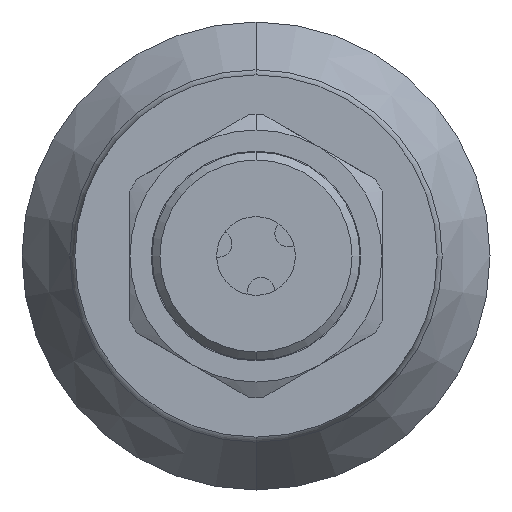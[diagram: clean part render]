
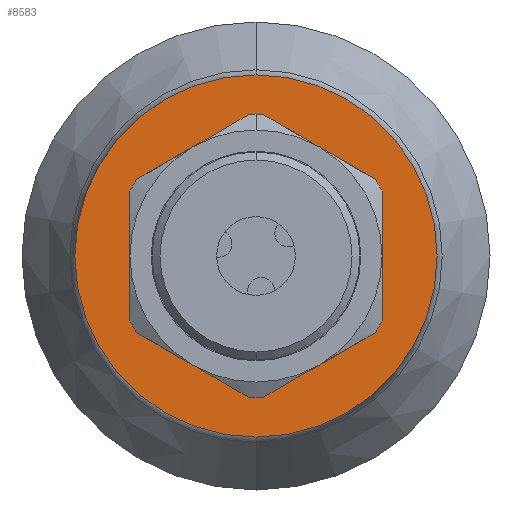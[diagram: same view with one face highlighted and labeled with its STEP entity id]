
A CAD part, front view. The second image highlights one B-rep face of the part: STEP entity #8583.
In plain terms, the highlighted planar face has unit normal (0, -1, 0).
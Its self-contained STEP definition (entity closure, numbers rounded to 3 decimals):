
#468 = LINE ( 'NONE', #13106, #13271 ) ;
#508 = VERTEX_POINT ( 'NONE', #13259 ) ;
#617 = VERTEX_POINT ( 'NONE', #12422 ) ;
#692 = CIRCLE ( 'NONE', #1137, 9. ) ;
#703 = DIRECTION ( 'NONE',  ( 0., 0., -1. ) ) ;
#989 = VERTEX_POINT ( 'NONE', #11395 ) ;
#995 = EDGE_CURVE ( 'NONE', #3315, #7784, #7433, .T. ) ;
#1007 = CARTESIAN_POINT ( 'NONE',  ( 8., 19.8, -4.619 ) ) ;
#1029 = CARTESIAN_POINT ( 'NONE',  ( 8., 19.8, 4.123 ) ) ;
#1050 = ORIENTED_EDGE ( 'NONE', *, *, #1632, .F. ) ;
#1064 = EDGE_LOOP ( 'NONE', ( #1401, #8921 ) ) ;
#1074 = AXIS2_PLACEMENT_3D ( 'NONE', #7145, #4923, #7068 ) ;
#1123 = DIRECTION ( 'NONE',  ( 0., 0., -1. ) ) ;
#1137 = AXIS2_PLACEMENT_3D ( 'NONE', #6311, #5139, #7161 ) ;
#1319 = VECTOR ( 'NONE', #10191, 1000. ) ;
#1401 = ORIENTED_EDGE ( 'NONE', *, *, #5415, .T. ) ;
#1632 = EDGE_CURVE ( 'NONE', #8561, #3315, #6486, .T. ) ;
#1740 = AXIS2_PLACEMENT_3D ( 'NONE', #6255, #11488, #3344 ) ;
#1790 = VERTEX_POINT ( 'NONE', #8435 ) ;
#1854 = DIRECTION ( 'NONE',  ( 0., -1., 0. ) ) ;
#1861 = DIRECTION ( 'NONE',  ( 0., -1., 0. ) ) ;
#2003 = DIRECTION ( 'NONE',  ( 0., 0., -1. ) ) ;
#2051 = FACE_BOUND ( 'NONE', #2630, .T. ) ;
#2084 = DIRECTION ( 'NONE',  ( 0., 0., 1. ) ) ;
#2321 = DIRECTION ( 'NONE',  ( 0.866, 0., -0.5 ) ) ;
#2404 = DIRECTION ( 'NONE',  ( 0., -1., 0. ) ) ;
#2623 = AXIS2_PLACEMENT_3D ( 'NONE', #12100, #5100, #9237 ) ;
#2630 = EDGE_LOOP ( 'NONE', ( #7481, #8770, #8790, #1050, #7485, #13202, #6923, #10502, #3435, #6807, #4029, #4002, #10470 ) ) ;
#3310 = EDGE_CURVE ( 'NONE', #1790, #508, #8000, .T. ) ;
#3315 = VERTEX_POINT ( 'NONE', #9103 ) ;
#3339 = CARTESIAN_POINT ( 'NONE',  ( -8., 19.8, -4.619 ) ) ;
#3344 = DIRECTION ( 'NONE',  ( 0., 0., -1. ) ) ;
#3347 = EDGE_CURVE ( 'NONE', #7784, #1790, #3690, .T. ) ;
#3435 = ORIENTED_EDGE ( 'NONE', *, *, #8582, .F. ) ;
#3553 = VERTEX_POINT ( 'NONE', #4487 ) ;
#3659 = DIRECTION ( 'NONE',  ( -0.866, 0., -0.5 ) ) ;
#3690 = CIRCLE ( 'NONE', #1740, 9. ) ;
#3789 = DIRECTION ( 'NONE',  ( 0., 0., -1. ) ) ;
#3896 = VECTOR ( 'NONE', #5570, 1000. ) ;
#3960 = LINE ( 'NONE', #13152, #11483 ) ;
#4002 = ORIENTED_EDGE ( 'NONE', *, *, #12294, .F. ) ;
#4023 = VERTEX_POINT ( 'NONE', #5192 ) ;
#4029 = ORIENTED_EDGE ( 'NONE', *, *, #6182, .F. ) ;
#4135 = CIRCLE ( 'NONE', #4801, 9. ) ;
#4429 = CARTESIAN_POINT ( 'NONE',  ( 0., 19.8, 0. ) ) ;
#4487 = CARTESIAN_POINT ( 'NONE',  ( -7.571, 19.8, 4.867 ) ) ;
#4624 = LINE ( 'NONE', #3339, #9753 ) ;
#4801 = AXIS2_PLACEMENT_3D ( 'NONE', #9011, #9966, #3789 ) ;
#4923 = DIRECTION ( 'NONE',  ( 0., -1., 0. ) ) ;
#5028 = CARTESIAN_POINT ( 'NONE',  ( -0.429, 19.8, 8.99 ) ) ;
#5100 = DIRECTION ( 'NONE',  ( 0., -1., 0. ) ) ;
#5139 = DIRECTION ( 'NONE',  ( 0., -1., 0. ) ) ;
#5192 = CARTESIAN_POINT ( 'NONE',  ( -8., 19.8, 4.123 ) ) ;
#5415 = EDGE_CURVE ( 'NONE', #6042, #8130, #5529, .T. ) ;
#5474 = VERTEX_POINT ( 'NONE', #5028 ) ;
#5529 = CIRCLE ( 'NONE', #6167, 11.5 ) ;
#5570 = DIRECTION ( 'NONE',  ( 0.866, 0., 0.5 ) ) ;
#5751 = AXIS2_PLACEMENT_3D ( 'NONE', #11106, #1861, #1123 ) ;
#5856 = EDGE_CURVE ( 'NONE', #8773, #989, #4624, .T. ) ;
#5866 = CARTESIAN_POINT ( 'NONE',  ( 0., 19.8, 0. ) ) ;
#5887 = EDGE_CURVE ( 'NONE', #9614, #8561, #10734, .T. ) ;
#6042 = VERTEX_POINT ( 'NONE', #13315 ) ;
#6046 = PLANE ( 'NONE',  #10199 ) ;
#6167 = AXIS2_PLACEMENT_3D ( 'NONE', #4429, #2404, #12985 ) ;
#6176 = CARTESIAN_POINT ( 'NONE',  ( 0., 19.8, -11.5 ) ) ;
#6182 = EDGE_CURVE ( 'NONE', #3553, #4023, #692, .T. ) ;
#6255 = CARTESIAN_POINT ( 'NONE',  ( 0., 19.8, 0. ) ) ;
#6311 = CARTESIAN_POINT ( 'NONE',  ( 0., 19.8, 0. ) ) ;
#6486 = CIRCLE ( 'NONE', #1074, 9. ) ;
#6722 = CIRCLE ( 'NONE', #9981, 9. ) ;
#6807 = ORIENTED_EDGE ( 'NONE', *, *, #7406, .F. ) ;
#6923 = ORIENTED_EDGE ( 'NONE', *, *, #11207, .F. ) ;
#6990 = CARTESIAN_POINT ( 'NONE',  ( 0., 19.8, -9. ) ) ;
#7068 = DIRECTION ( 'NONE',  ( 0., 0., -1. ) ) ;
#7145 = CARTESIAN_POINT ( 'NONE',  ( 0., 19.8, 0. ) ) ;
#7161 = DIRECTION ( 'NONE',  ( 0., 0., -1. ) ) ;
#7406 = EDGE_CURVE ( 'NONE', #4023, #617, #3960, .T. ) ;
#7433 = LINE ( 'NONE', #1007, #12535 ) ;
#7455 = CARTESIAN_POINT ( 'NONE',  ( -7.571, 19.8, -4.867 ) ) ;
#7481 = ORIENTED_EDGE ( 'NONE', *, *, #3310, .F. ) ;
#7485 = ORIENTED_EDGE ( 'NONE', *, *, #5887, .F. ) ;
#7672 = CIRCLE ( 'NONE', #5751, 11.5 ) ;
#7784 = VERTEX_POINT ( 'NONE', #1029 ) ;
#8000 = LINE ( 'NONE', #12168, #1319 ) ;
#8067 = EDGE_CURVE ( 'NONE', #508, #5474, #6722, .T. ) ;
#8130 = VERTEX_POINT ( 'NONE', #6176 ) ;
#8194 = FACE_OUTER_BOUND ( 'NONE', #1064, .T. ) ;
#8203 = DIRECTION ( 'NONE',  ( 0., 0., -1. ) ) ;
#8435 = CARTESIAN_POINT ( 'NONE',  ( 7.571, 19.8, 4.867 ) ) ;
#8561 = VERTEX_POINT ( 'NONE', #13136 ) ;
#8582 = EDGE_CURVE ( 'NONE', #617, #8773, #9113, .T. ) ;
#8583 = ADVANCED_FACE ( 'NONE', ( #2051, #8194 ), #6046, .T. ) ;
#8770 = ORIENTED_EDGE ( 'NONE', *, *, #3347, .F. ) ;
#8773 = VERTEX_POINT ( 'NONE', #7455 ) ;
#8790 = ORIENTED_EDGE ( 'NONE', *, *, #995, .F. ) ;
#8921 = ORIENTED_EDGE ( 'NONE', *, *, #13108, .T. ) ;
#9011 = CARTESIAN_POINT ( 'NONE',  ( 0., 19.8, 0. ) ) ;
#9103 = CARTESIAN_POINT ( 'NONE',  ( 8., 19.8, -4.123 ) ) ;
#9113 = CIRCLE ( 'NONE', #2623, 9. ) ;
#9237 = DIRECTION ( 'NONE',  ( 0., 0., -1. ) ) ;
#9541 = AXIS2_PLACEMENT_3D ( 'NONE', #5866, #1854, #8203 ) ;
#9614 = VERTEX_POINT ( 'NONE', #10505 ) ;
#9747 = CIRCLE ( 'NONE', #9541, 9. ) ;
#9753 = VECTOR ( 'NONE', #2321, 1000. ) ;
#9966 = DIRECTION ( 'NONE',  ( 0., -1., 0. ) ) ;
#9981 = AXIS2_PLACEMENT_3D ( 'NONE', #11196, #13115, #11068 ) ;
#10191 = DIRECTION ( 'NONE',  ( -0.866, 0., 0.5 ) ) ;
#10199 = AXIS2_PLACEMENT_3D ( 'NONE', #12368, #11356, #703 ) ;
#10470 = ORIENTED_EDGE ( 'NONE', *, *, #8067, .F. ) ;
#10502 = ORIENTED_EDGE ( 'NONE', *, *, #5856, .F. ) ;
#10505 = CARTESIAN_POINT ( 'NONE',  ( 0.429, 19.8, -8.99 ) ) ;
#10734 = LINE ( 'NONE', #10866, #3896 ) ;
#10866 = CARTESIAN_POINT ( 'NONE',  ( 0., 19.8, -9.238 ) ) ;
#11068 = DIRECTION ( 'NONE',  ( 0., 0., -1. ) ) ;
#11106 = CARTESIAN_POINT ( 'NONE',  ( 0., 19.8, 0. ) ) ;
#11196 = CARTESIAN_POINT ( 'NONE',  ( 0., 19.8, 0. ) ) ;
#11207 = EDGE_CURVE ( 'NONE', #989, #11314, #9747, .T. ) ;
#11314 = VERTEX_POINT ( 'NONE', #6990 ) ;
#11356 = DIRECTION ( 'NONE',  ( 0., -1., 0. ) ) ;
#11395 = CARTESIAN_POINT ( 'NONE',  ( -0.429, 19.8, -8.99 ) ) ;
#11483 = VECTOR ( 'NONE', #2003, 1000. ) ;
#11488 = DIRECTION ( 'NONE',  ( 0., -1., 0. ) ) ;
#12100 = CARTESIAN_POINT ( 'NONE',  ( 0., 19.8, 0. ) ) ;
#12168 = CARTESIAN_POINT ( 'NONE',  ( 8., 19.8, 4.619 ) ) ;
#12294 = EDGE_CURVE ( 'NONE', #5474, #3553, #468, .T. ) ;
#12312 = EDGE_CURVE ( 'NONE', #11314, #9614, #4135, .T. ) ;
#12368 = CARTESIAN_POINT ( 'NONE',  ( 0., 19.8, 0. ) ) ;
#12422 = CARTESIAN_POINT ( 'NONE',  ( -8., 19.8, -4.123 ) ) ;
#12535 = VECTOR ( 'NONE', #2084, 1000. ) ;
#12985 = DIRECTION ( 'NONE',  ( 0., 0., -1. ) ) ;
#13106 = CARTESIAN_POINT ( 'NONE',  ( 0., 19.8, 9.238 ) ) ;
#13108 = EDGE_CURVE ( 'NONE', #8130, #6042, #7672, .T. ) ;
#13115 = DIRECTION ( 'NONE',  ( 0., -1., 0. ) ) ;
#13136 = CARTESIAN_POINT ( 'NONE',  ( 7.571, 19.8, -4.867 ) ) ;
#13152 = CARTESIAN_POINT ( 'NONE',  ( -8., 19.8, 4.619 ) ) ;
#13202 = ORIENTED_EDGE ( 'NONE', *, *, #12312, .F. ) ;
#13259 = CARTESIAN_POINT ( 'NONE',  ( 0.429, 19.8, 8.99 ) ) ;
#13271 = VECTOR ( 'NONE', #3659, 1000. ) ;
#13315 = CARTESIAN_POINT ( 'NONE',  ( 0., 19.8, 11.5 ) ) ;
